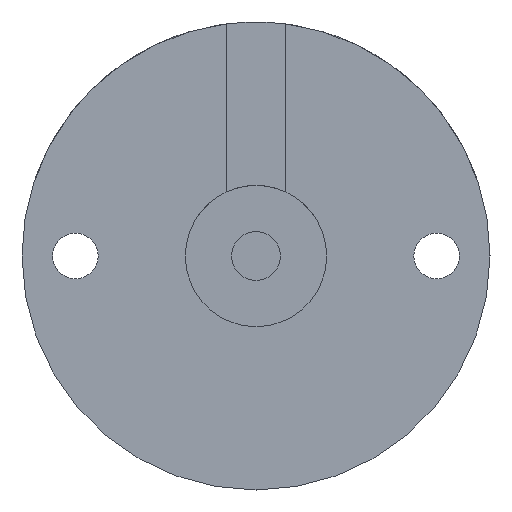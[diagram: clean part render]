
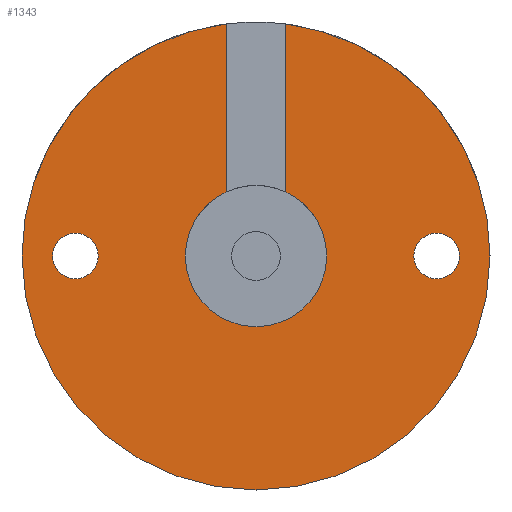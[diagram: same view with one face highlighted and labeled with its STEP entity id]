
A CAD part, front view. The second image highlights one B-rep face of the part: STEP entity #1343.
In plain terms, the highlighted planar face has unit normal (0, -1, 0).
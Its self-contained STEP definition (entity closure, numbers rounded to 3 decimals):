
#1 = CIRCLE ( 'NONE', #423, 14.9 ) ;
#28 = DIRECTION ( 'NONE',  ( -1., 0., 0. ) ) ;
#41 = ORIENTED_EDGE ( 'NONE', *, *, #1929, .F. ) ;
#62 = DIRECTION ( 'NONE',  ( 1., 0., 0. ) ) ;
#127 = CARTESIAN_POINT ( 'NONE',  ( 11.5, -18.6, 0. ) ) ;
#160 = EDGE_CURVE ( 'NONE', #1274, #1882, #626, .T. ) ;
#172 = CARTESIAN_POINT ( 'NONE',  ( 0., -18.6, 0. ) ) ;
#194 = DIRECTION ( 'NONE',  ( 1., 0., 0. ) ) ;
#196 = VECTOR ( 'NONE', #1035, 1000. ) ;
#255 = CIRCLE ( 'NONE', #1801, 1.45 ) ;
#264 = CARTESIAN_POINT ( 'NONE',  ( 10.05, -18.6, 0. ) ) ;
#318 = EDGE_CURVE ( 'NONE', #593, #852, #1, .T. ) ;
#356 = EDGE_CURVE ( 'NONE', #1106, #1234, #672, .T. ) ;
#357 = FACE_BOUND ( 'NONE', #1717, .T. ) ;
#402 = DIRECTION ( 'NONE',  ( 0., -1., 0. ) ) ;
#413 = EDGE_CURVE ( 'NONE', #1168, #720, #1581, .T. ) ;
#423 = AXIS2_PLACEMENT_3D ( 'NONE', #988, #1147, #1987 ) ;
#440 = CARTESIAN_POINT ( 'NONE',  ( -1.9, -18.6, 4.079 ) ) ;
#453 = VERTEX_POINT ( 'NONE', #1359 ) ;
#467 = CIRCLE ( 'NONE', #2012, 1.45 ) ;
#477 = LINE ( 'NONE', #2004, #196 ) ;
#498 = CIRCLE ( 'NONE', #792, 1.45 ) ;
#518 = CARTESIAN_POINT ( 'NONE',  ( -10.05, -18.6, 0. ) ) ;
#521 = EDGE_CURVE ( 'NONE', #1177, #773, #467, .T. ) ;
#529 = DIRECTION ( 'NONE',  ( 0., -1., 0. ) ) ;
#536 = DIRECTION ( 'NONE',  ( 0., -1., 0. ) ) ;
#554 = CARTESIAN_POINT ( 'NONE',  ( -11.5, -18.6, 0. ) ) ;
#560 = ORIENTED_EDGE ( 'NONE', *, *, #1338, .F. ) ;
#575 = ORIENTED_EDGE ( 'NONE', *, *, #1116, .F. ) ;
#593 = VERTEX_POINT ( 'NONE', #1926 ) ;
#600 = LINE ( 'NONE', #2091, #1900 ) ;
#623 = DIRECTION ( 'NONE',  ( 0., -1., 0. ) ) ;
#624 = EDGE_CURVE ( 'NONE', #453, #593, #600, .T. ) ;
#626 = CIRCLE ( 'NONE', #1779, 14.9 ) ;
#672 = CIRCLE ( 'NONE', #1404, 4.5 ) ;
#720 = VERTEX_POINT ( 'NONE', #1506 ) ;
#771 = AXIS2_PLACEMENT_3D ( 'NONE', #172, #864, #1191 ) ;
#773 = VERTEX_POINT ( 'NONE', #518 ) ;
#776 = EDGE_CURVE ( 'NONE', #773, #1177, #498, .T. ) ;
#792 = AXIS2_PLACEMENT_3D ( 'NONE', #1354, #529, #1673 ) ;
#821 = VERTEX_POINT ( 'NONE', #2079 ) ;
#849 = DIRECTION ( 'NONE',  ( 0., -1., 0. ) ) ;
#852 = VERTEX_POINT ( 'NONE', #1743 ) ;
#864 = DIRECTION ( 'NONE',  ( 0., 1., 0. ) ) ;
#887 = DIRECTION ( 'NONE',  ( 0., 1., 0. ) ) ;
#892 = ORIENTED_EDGE ( 'NONE', *, *, #356, .F. ) ;
#930 = DIRECTION ( 'NONE',  ( 0., 0., 1. ) ) ;
#968 = CARTESIAN_POINT ( 'NONE',  ( -4.5, -18.6, 0. ) ) ;
#986 = ORIENTED_EDGE ( 'NONE', *, *, #318, .F. ) ;
#988 = CARTESIAN_POINT ( 'NONE',  ( 0., -18.6, 0. ) ) ;
#990 = AXIS2_PLACEMENT_3D ( 'NONE', #1289, #402, #1420 ) ;
#1035 = DIRECTION ( 'NONE',  ( 0., 0., -1. ) ) ;
#1106 = VERTEX_POINT ( 'NONE', #440 ) ;
#1116 = EDGE_CURVE ( 'NONE', #821, #453, #1134, .T. ) ;
#1134 = CIRCLE ( 'NONE', #990, 4.5 ) ;
#1147 = DIRECTION ( 'NONE',  ( 0., 1., 0. ) ) ;
#1168 = VERTEX_POINT ( 'NONE', #264 ) ;
#1177 = VERTEX_POINT ( 'NONE', #1925 ) ;
#1180 = ORIENTED_EDGE ( 'NONE', *, *, #776, .F. ) ;
#1186 = CARTESIAN_POINT ( 'NONE',  ( 14.9, -18.6, 0. ) ) ;
#1191 = DIRECTION ( 'NONE',  ( -1., 0., 0. ) ) ;
#1227 = AXIS2_PLACEMENT_3D ( 'NONE', #1960, #623, #1291 ) ;
#1234 = VERTEX_POINT ( 'NONE', #968 ) ;
#1268 = DIRECTION ( 'NONE',  ( 0., 1., 0. ) ) ;
#1274 = VERTEX_POINT ( 'NONE', #1469 ) ;
#1289 = CARTESIAN_POINT ( 'NONE',  ( 0., -18.6, 0. ) ) ;
#1291 = DIRECTION ( 'NONE',  ( 1., 0., 0. ) ) ;
#1333 = CIRCLE ( 'NONE', #1227, 4.5 ) ;
#1338 = EDGE_CURVE ( 'NONE', #720, #1168, #255, .T. ) ;
#1343 = ADVANCED_FACE ( 'NONE', ( #357, #1890, #1688 ), #1509, .F. ) ;
#1354 = CARTESIAN_POINT ( 'NONE',  ( -11.5, -18.6, 0. ) ) ;
#1359 = CARTESIAN_POINT ( 'NONE',  ( 1.9, -18.6, 4.079 ) ) ;
#1379 = CARTESIAN_POINT ( 'NONE',  ( 0., -18.6, 0. ) ) ;
#1381 = ORIENTED_EDGE ( 'NONE', *, *, #521, .F. ) ;
#1404 = AXIS2_PLACEMENT_3D ( 'NONE', #1379, #849, #194 ) ;
#1420 = DIRECTION ( 'NONE',  ( 1., 0., 0. ) ) ;
#1468 = CARTESIAN_POINT ( 'NONE',  ( 0., -18.6, 0. ) ) ;
#1469 = CARTESIAN_POINT ( 'NONE',  ( -14.9, -18.6, 0. ) ) ;
#1506 = CARTESIAN_POINT ( 'NONE',  ( 12.95, -18.6, 0. ) ) ;
#1509 = PLANE ( 'NONE',  #2042 ) ;
#1560 = ORIENTED_EDGE ( 'NONE', *, *, #624, .F. ) ;
#1567 = DIRECTION ( 'NONE',  ( 0., -1., 0. ) ) ;
#1581 = CIRCLE ( 'NONE', #1798, 1.45 ) ;
#1602 = ORIENTED_EDGE ( 'NONE', *, *, #2175, .F. ) ;
#1673 = DIRECTION ( 'NONE',  ( 1., 0., 0. ) ) ;
#1688 = FACE_OUTER_BOUND ( 'NONE', #1721, .T. ) ;
#1699 = DIRECTION ( 'NONE',  ( 0., -1., 0. ) ) ;
#1705 = CIRCLE ( 'NONE', #771, 14.9 ) ;
#1717 = EDGE_LOOP ( 'NONE', ( #1180, #1381 ) ) ;
#1721 = EDGE_LOOP ( 'NONE', ( #986, #1560, #575, #1602, #892, #2001, #2064, #41 ) ) ;
#1743 = CARTESIAN_POINT ( 'NONE',  ( 14.9, -18.6, 0. ) ) ;
#1779 = AXIS2_PLACEMENT_3D ( 'NONE', #1468, #1268, #2113 ) ;
#1798 = AXIS2_PLACEMENT_3D ( 'NONE', #1881, #536, #2040 ) ;
#1801 = AXIS2_PLACEMENT_3D ( 'NONE', #127, #1699, #2039 ) ;
#1869 = EDGE_LOOP ( 'NONE', ( #560, #2066 ) ) ;
#1881 = CARTESIAN_POINT ( 'NONE',  ( 11.5, -18.6, 0. ) ) ;
#1882 = VERTEX_POINT ( 'NONE', #1983 ) ;
#1883 = EDGE_CURVE ( 'NONE', #1882, #1106, #477, .T. ) ;
#1890 = FACE_BOUND ( 'NONE', #1869, .T. ) ;
#1900 = VECTOR ( 'NONE', #930, 1000. ) ;
#1925 = CARTESIAN_POINT ( 'NONE',  ( -12.95, -18.6, 0. ) ) ;
#1926 = CARTESIAN_POINT ( 'NONE',  ( 1.9, -18.6, 14.778 ) ) ;
#1929 = EDGE_CURVE ( 'NONE', #852, #1274, #1705, .T. ) ;
#1960 = CARTESIAN_POINT ( 'NONE',  ( 0., -18.6, 0. ) ) ;
#1983 = CARTESIAN_POINT ( 'NONE',  ( -1.9, -18.6, 14.778 ) ) ;
#1987 = DIRECTION ( 'NONE',  ( -1., 0., 0. ) ) ;
#2001 = ORIENTED_EDGE ( 'NONE', *, *, #1883, .F. ) ;
#2004 = CARTESIAN_POINT ( 'NONE',  ( -1.9, -18.6, 25.721 ) ) ;
#2012 = AXIS2_PLACEMENT_3D ( 'NONE', #554, #1567, #62 ) ;
#2039 = DIRECTION ( 'NONE',  ( 1., 0., 0. ) ) ;
#2040 = DIRECTION ( 'NONE',  ( 1., 0., 0. ) ) ;
#2042 = AXIS2_PLACEMENT_3D ( 'NONE', #1186, #887, #28 ) ;
#2064 = ORIENTED_EDGE ( 'NONE', *, *, #160, .F. ) ;
#2066 = ORIENTED_EDGE ( 'NONE', *, *, #413, .F. ) ;
#2079 = CARTESIAN_POINT ( 'NONE',  ( 4.5, -18.6, 0. ) ) ;
#2091 = CARTESIAN_POINT ( 'NONE',  ( 1.9, -18.6, 25.721 ) ) ;
#2113 = DIRECTION ( 'NONE',  ( -1., 0., 0. ) ) ;
#2175 = EDGE_CURVE ( 'NONE', #1234, #821, #1333, .T. ) ;
